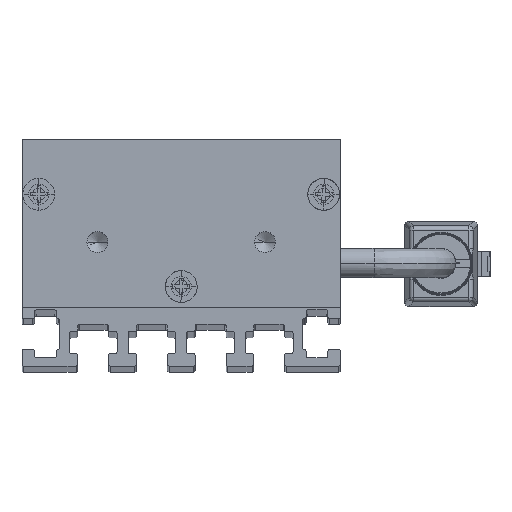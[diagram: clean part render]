
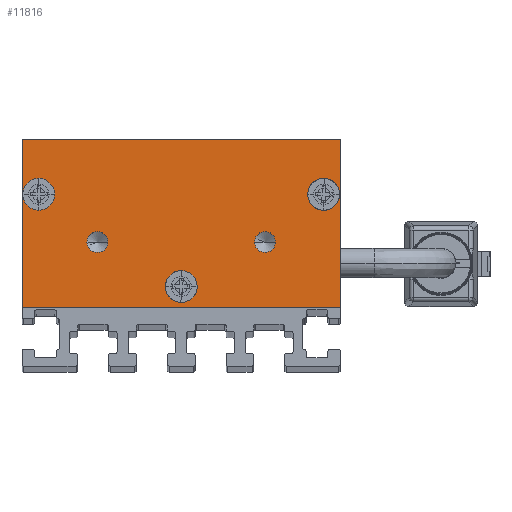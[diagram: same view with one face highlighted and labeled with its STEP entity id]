
A CAD part, top view. The second image highlights one B-rep face of the part: STEP entity #11816.
In plain terms, the highlighted planar face has unit normal (0, 0, 1) as drawn and (0, 0, -1) by its records, which use the part's own axes.
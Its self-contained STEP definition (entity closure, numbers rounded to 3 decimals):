
#191 = DIRECTION ( 'NONE',  ( -1., 0., 0. ) ) ;
#217 = EDGE_CURVE ( 'NONE', #2693, #4985, #9651, .T. ) ;
#316 = EDGE_CURVE ( 'NONE', #13857, #16236, #7095, .T. ) ;
#352 = CIRCLE ( 'NONE', #2455, 1.9 ) ;
#657 = DIRECTION ( 'NONE',  ( 0., 1., 0. ) ) ;
#1076 = CARTESIAN_POINT ( 'NONE',  ( 18.9, 13.5, -2.5 ) ) ;
#1224 = EDGE_CURVE ( 'NONE', #1493, #14532, #4415, .T. ) ;
#1326 = VECTOR ( 'NONE', #6921, 1000. ) ;
#1329 = DIRECTION ( 'NONE',  ( 0., 0., -1. ) ) ;
#1343 = CARTESIAN_POINT ( 'NONE',  ( -19., 20., -2.5 ) ) ;
#1493 = VERTEX_POINT ( 'NONE', #1343 ) ;
#1532 = DIRECTION ( 'NONE',  ( 0., 0., -1. ) ) ;
#1556 = CARTESIAN_POINT ( 'NONE',  ( 1.9, 2.5, -2.5 ) ) ;
#1615 = EDGE_LOOP ( 'NONE', ( #3745, #13465 ) ) ;
#1738 = ORIENTED_EDGE ( 'NONE', *, *, #316, .F. ) ;
#1856 = CARTESIAN_POINT ( 'NONE',  ( -19., 20., -2.5 ) ) ;
#1895 = EDGE_CURVE ( 'NONE', #14341, #11839, #3675, .T. ) ;
#2066 = CIRCLE ( 'NONE', #7623, 1.25 ) ;
#2108 = ORIENTED_EDGE ( 'NONE', *, *, #15987, .F. ) ;
#2188 = EDGE_CURVE ( 'NONE', #11839, #14341, #352, .T. ) ;
#2233 = CIRCLE ( 'NONE', #4333, 1.25 ) ;
#2455 = AXIS2_PLACEMENT_3D ( 'NONE', #7689, #2633, #5198 ) ;
#2500 = CARTESIAN_POINT ( 'NONE',  ( 0., 2.5, -2.5 ) ) ;
#2588 = DIRECTION ( 'NONE',  ( 0., 0., -1. ) ) ;
#2612 = CARTESIAN_POINT ( 'NONE',  ( -8.75, 7.8, -2.5 ) ) ;
#2633 = DIRECTION ( 'NONE',  ( 0., 0., -1. ) ) ;
#2693 = VERTEX_POINT ( 'NONE', #2612 ) ;
#2776 = CIRCLE ( 'NONE', #5420, 1.25 ) ;
#3092 = FACE_BOUND ( 'NONE', #1615, .T. ) ;
#3094 = CARTESIAN_POINT ( 'NONE',  ( -15.1, 13.5, -2.5 ) ) ;
#3167 = EDGE_LOOP ( 'NONE', ( #2108, #1738 ) ) ;
#3174 = FACE_BOUND ( 'NONE', #3167, .T. ) ;
#3259 = PLANE ( 'NONE',  #15497 ) ;
#3671 = DIRECTION ( 'NONE',  ( 1., 0., 0. ) ) ;
#3675 = CIRCLE ( 'NONE', #14820, 1.9 ) ;
#3686 = DIRECTION ( 'NONE',  ( 0., 0., -1. ) ) ;
#3745 = ORIENTED_EDGE ( 'NONE', *, *, #14263, .F. ) ;
#3896 = CARTESIAN_POINT ( 'NONE',  ( 19., 20., -2.5 ) ) ;
#3912 = DIRECTION ( 'NONE',  ( 0., 0., -1. ) ) ;
#3923 = CARTESIAN_POINT ( 'NONE',  ( -19., 20., -2.5 ) ) ;
#3971 = CARTESIAN_POINT ( 'NONE',  ( 19., 0., -2.5 ) ) ;
#4307 = ORIENTED_EDGE ( 'NONE', *, *, #12816, .F. ) ;
#4333 = AXIS2_PLACEMENT_3D ( 'NONE', #10182, #1532, #191 ) ;
#4415 = LINE ( 'NONE', #1856, #1326 ) ;
#4582 = CARTESIAN_POINT ( 'NONE',  ( -19., 0., -2.5 ) ) ;
#4672 = DIRECTION ( 'NONE',  ( 1., 0., 0. ) ) ;
#4774 = ORIENTED_EDGE ( 'NONE', *, *, #1224, .F. ) ;
#4944 = VERTEX_POINT ( 'NONE', #3896 ) ;
#4985 = VERTEX_POINT ( 'NONE', #11557 ) ;
#5198 = DIRECTION ( 'NONE',  ( -1., 0., 0. ) ) ;
#5420 = AXIS2_PLACEMENT_3D ( 'NONE', #11591, #3686, #12587 ) ;
#5723 = EDGE_CURVE ( 'NONE', #4985, #2693, #2066, .T. ) ;
#5973 = EDGE_CURVE ( 'NONE', #4944, #1493, #11493, .T. ) ;
#5995 = CARTESIAN_POINT ( 'NONE',  ( -10., 7.8, -2.5 ) ) ;
#6461 = CIRCLE ( 'NONE', #13883, 1.9 ) ;
#6607 = EDGE_LOOP ( 'NONE', ( #12786, #12416 ) ) ;
#6921 = DIRECTION ( 'NONE',  ( 0., -1., 0. ) ) ;
#7008 = FACE_BOUND ( 'NONE', #9057, .T. ) ;
#7081 = CARTESIAN_POINT ( 'NONE',  ( 17., 13.5, -2.5 ) ) ;
#7095 = CIRCLE ( 'NONE', #12668, 1.9 ) ;
#7623 = AXIS2_PLACEMENT_3D ( 'NONE', #9679, #11001, #16038 ) ;
#7689 = CARTESIAN_POINT ( 'NONE',  ( -17., 13.5, -2.5 ) ) ;
#7935 = CARTESIAN_POINT ( 'NONE',  ( -1.9, 2.5, -2.5 ) ) ;
#8054 = DIRECTION ( 'NONE',  ( -1., 0., 0. ) ) ;
#8289 = EDGE_LOOP ( 'NONE', ( #4774, #14128, #15176, #12108 ) ) ;
#8332 = CARTESIAN_POINT ( 'NONE',  ( 0., 0., -2.5 ) ) ;
#8405 = DIRECTION ( 'NONE',  ( 0., 0., -1. ) ) ;
#8420 = FACE_OUTER_BOUND ( 'NONE', #8289, .T. ) ;
#8647 = ORIENTED_EDGE ( 'NONE', *, *, #217, .F. ) ;
#8682 = EDGE_LOOP ( 'NONE', ( #4307, #15486 ) ) ;
#8750 = DIRECTION ( 'NONE',  ( 0., 0., -1. ) ) ;
#8793 = VECTOR ( 'NONE', #657, 1000. ) ;
#9057 = EDGE_LOOP ( 'NONE', ( #11372, #8647 ) ) ;
#9559 = EDGE_CURVE ( 'NONE', #14045, #4944, #15841, .T. ) ;
#9626 = AXIS2_PLACEMENT_3D ( 'NONE', #2500, #1329, #10065 ) ;
#9651 = CIRCLE ( 'NONE', #13885, 1.25 ) ;
#9679 = CARTESIAN_POINT ( 'NONE',  ( -10., 7.8, -2.5 ) ) ;
#9839 = FACE_BOUND ( 'NONE', #8682, .T. ) ;
#9886 = CIRCLE ( 'NONE', #9626, 1.9 ) ;
#10065 = DIRECTION ( 'NONE',  ( -1., 0., 0. ) ) ;
#10094 = VERTEX_POINT ( 'NONE', #7935 ) ;
#10098 = CARTESIAN_POINT ( 'NONE',  ( 8.75, 7.8, -2.5 ) ) ;
#10182 = CARTESIAN_POINT ( 'NONE',  ( 10., 7.8, -2.5 ) ) ;
#10562 = CARTESIAN_POINT ( 'NONE',  ( 17., 13.5, -2.5 ) ) ;
#10717 = AXIS2_PLACEMENT_3D ( 'NONE', #11242, #8750, #13812 ) ;
#11001 = DIRECTION ( 'NONE',  ( 0., 0., -1. ) ) ;
#11223 = DIRECTION ( 'NONE',  ( -1., 0., 0. ) ) ;
#11242 = CARTESIAN_POINT ( 'NONE',  ( 0., 2.5, -2.5 ) ) ;
#11262 = VERTEX_POINT ( 'NONE', #14181 ) ;
#11318 = LINE ( 'NONE', #12736, #13666 ) ;
#11372 = ORIENTED_EDGE ( 'NONE', *, *, #5723, .F. ) ;
#11377 = CARTESIAN_POINT ( 'NONE',  ( -17., 13.5, -2.5 ) ) ;
#11493 = LINE ( 'NONE', #3923, #15575 ) ;
#11520 = CIRCLE ( 'NONE', #10717, 1.9 ) ;
#11557 = CARTESIAN_POINT ( 'NONE',  ( -11.25, 7.8, -2.5 ) ) ;
#11591 = CARTESIAN_POINT ( 'NONE',  ( 10., 7.8, -2.5 ) ) ;
#11816 = ADVANCED_FACE ( 'NONE', ( #3174, #9839, #13326, #3092, #7008, #8420 ), #3259, .F. ) ;
#11839 = VERTEX_POINT ( 'NONE', #16358 ) ;
#12051 = CARTESIAN_POINT ( 'NONE',  ( 19., 20., -2.5 ) ) ;
#12108 = ORIENTED_EDGE ( 'NONE', *, *, #13359, .F. ) ;
#12416 = ORIENTED_EDGE ( 'NONE', *, *, #1895, .F. ) ;
#12587 = DIRECTION ( 'NONE',  ( -1., 0., 0. ) ) ;
#12627 = DIRECTION ( 'NONE',  ( 0., 0., -1. ) ) ;
#12668 = AXIS2_PLACEMENT_3D ( 'NONE', #10562, #3912, #8054 ) ;
#12736 = CARTESIAN_POINT ( 'NONE',  ( -19., 0., -2.5 ) ) ;
#12786 = ORIENTED_EDGE ( 'NONE', *, *, #2188, .F. ) ;
#12804 = VERTEX_POINT ( 'NONE', #10098 ) ;
#12816 = EDGE_CURVE ( 'NONE', #10094, #15422, #11520, .T. ) ;
#12933 = DIRECTION ( 'NONE',  ( -1., 0., 0. ) ) ;
#13047 = EDGE_CURVE ( 'NONE', #11262, #12804, #2776, .T. ) ;
#13294 = CARTESIAN_POINT ( 'NONE',  ( 15.1, 13.5, -2.5 ) ) ;
#13326 = FACE_BOUND ( 'NONE', #6607, .T. ) ;
#13359 = EDGE_CURVE ( 'NONE', #14532, #14045, #11318, .T. ) ;
#13465 = ORIENTED_EDGE ( 'NONE', *, *, #13047, .F. ) ;
#13666 = VECTOR ( 'NONE', #3671, 1000. ) ;
#13718 = DIRECTION ( 'NONE',  ( -1., 0., 0. ) ) ;
#13812 = DIRECTION ( 'NONE',  ( -1., 0., 0. ) ) ;
#13857 = VERTEX_POINT ( 'NONE', #1076 ) ;
#13883 = AXIS2_PLACEMENT_3D ( 'NONE', #7081, #8405, #13718 ) ;
#13885 = AXIS2_PLACEMENT_3D ( 'NONE', #5995, #2588, #11223 ) ;
#14045 = VERTEX_POINT ( 'NONE', #3971 ) ;
#14128 = ORIENTED_EDGE ( 'NONE', *, *, #5973, .F. ) ;
#14181 = CARTESIAN_POINT ( 'NONE',  ( 11.25, 7.8, -2.5 ) ) ;
#14263 = EDGE_CURVE ( 'NONE', #12804, #11262, #2233, .T. ) ;
#14341 = VERTEX_POINT ( 'NONE', #3094 ) ;
#14532 = VERTEX_POINT ( 'NONE', #4582 ) ;
#14820 = AXIS2_PLACEMENT_3D ( 'NONE', #11377, #12627, #12933 ) ;
#15031 = EDGE_CURVE ( 'NONE', #15422, #10094, #9886, .T. ) ;
#15176 = ORIENTED_EDGE ( 'NONE', *, *, #9559, .F. ) ;
#15303 = DIRECTION ( 'NONE',  ( -1., 0., 0. ) ) ;
#15422 = VERTEX_POINT ( 'NONE', #1556 ) ;
#15486 = ORIENTED_EDGE ( 'NONE', *, *, #15031, .F. ) ;
#15497 = AXIS2_PLACEMENT_3D ( 'NONE', #8332, #16119, #4672 ) ;
#15575 = VECTOR ( 'NONE', #15303, 1000. ) ;
#15841 = LINE ( 'NONE', #12051, #8793 ) ;
#15987 = EDGE_CURVE ( 'NONE', #16236, #13857, #6461, .T. ) ;
#16038 = DIRECTION ( 'NONE',  ( -1., 0., 0. ) ) ;
#16119 = DIRECTION ( 'NONE',  ( 0., 0., 1. ) ) ;
#16236 = VERTEX_POINT ( 'NONE', #13294 ) ;
#16358 = CARTESIAN_POINT ( 'NONE',  ( -18.9, 13.5, -2.5 ) ) ;
